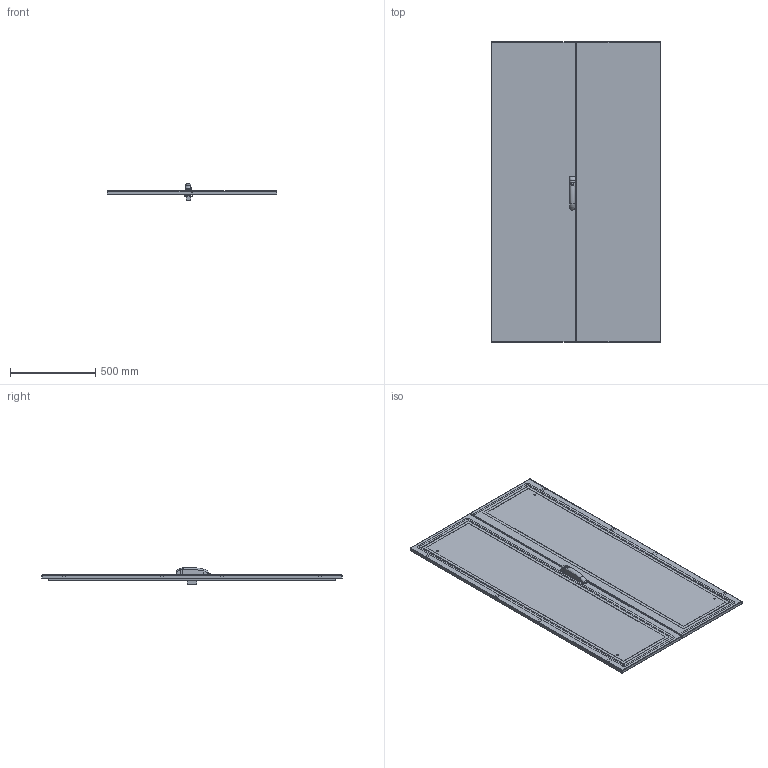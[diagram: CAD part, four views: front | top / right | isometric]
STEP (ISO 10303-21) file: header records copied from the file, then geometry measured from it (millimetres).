
FILE_DESCRIPTION (( 'STEP AP203' ), '1' );
FILE_NAME ('EUPO100180DP.STEP', '2021-03-15T11:03:54', ( '' ), ( '' ), 'SwSTEP 2.0', 'SolidWorks 2019', '' );
FILE_SCHEMA (( 'CONFIG_CONTROL_DESIGN' ));
Length unit declared in the file: millimetre
Products named in the file (5): AR_ENUX_nuova_maniglia_mesan; EUPO100180DP; AR_ENUX_montaggio_porta_IB_2.0_1000x1800_ANT_DX; AR_ENUX_Porta_CB_2.0_1000x1800_ANT_DX; AR_ENUX_Porta_IB_2.0_1000x1800_ANT
Assembly tree (4 placements, depth 3):
  EUPO100180DP
    AR_ENUX_Porta_CB_2.0_1000x1800_ANT_DX
    AR_ENUX_montaggio_porta_IB_2.0_1000x1800_ANT_DX
      AR_ENUX_Porta_IB_2.0_1000x1800_ANT
      AR_ENUX_nuova_maniglia_mesan
Bounding box: 995 x 1760 x 98.81 mm (x, y, z)
Volume: 5607418.1 mm3; surface area: 5012254.9 mm2
Topology: 3 solids, 3 shells, 1467 faces, 4242 edges, 2792 vertices
Faces by surface type: cylinder 907, plane 497, bspline 29, torus 15, sphere 15, cone 4
Entity records: 54264 total; most frequent: CARTESIAN_POINT 12424, DIRECTION 8880, ORIENTED_EDGE 8446, EDGE_CURVE 4223, AXIS2_PLACEMENT_3D 3298, VERTEX_POINT 2792, LINE 2284, VECTOR 2284
